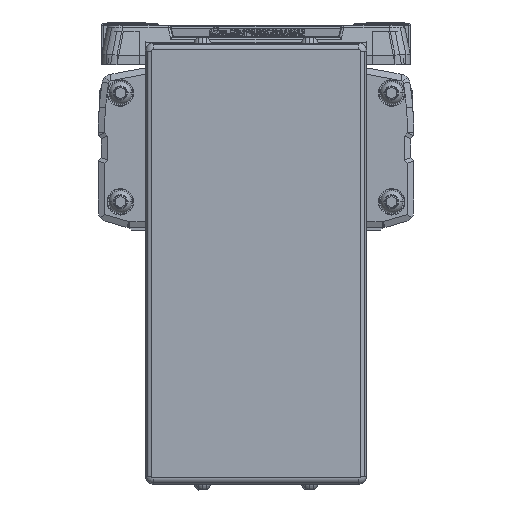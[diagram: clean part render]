
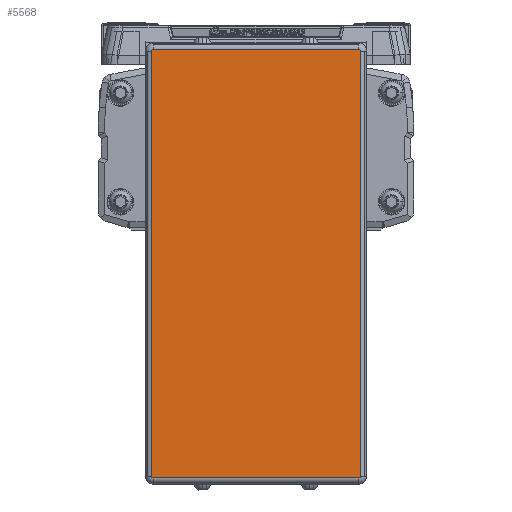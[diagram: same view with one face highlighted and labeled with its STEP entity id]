
A CAD part, left-side view. The second image highlights one B-rep face of the part: STEP entity #5568.
In plain terms, the highlighted planar face has unit normal (-1, 0, 0).
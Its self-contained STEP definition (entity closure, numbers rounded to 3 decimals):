
#5568=ADVANCED_FACE('',(#11791),#11792,.F.);
#11791=FACE_OUTER_BOUND('',#19036,.T.);
#11792=PLANE('',#19037);
#19036=EDGE_LOOP('',(#34960,#34961,#34962,#34963,#34964,#34965,#34966,#34967));
#19037=AXIS2_PLACEMENT_3D('',#34968,#34969,#34970);
#34960=ORIENTED_EDGE('',*,*,#47418,.T.);
#34961=ORIENTED_EDGE('',*,*,#47419,.T.);
#34962=ORIENTED_EDGE('',*,*,#43017,.T.);
#34963=ORIENTED_EDGE('',*,*,#44146,.T.);
#34964=ORIENTED_EDGE('',*,*,#46190,.T.);
#34965=ORIENTED_EDGE('',*,*,#44178,.T.);
#34966=ORIENTED_EDGE('',*,*,#43357,.T.);
#34967=ORIENTED_EDGE('',*,*,#46277,.T.);
#34968=CARTESIAN_POINT('',(-616.0,0.,-41.6));
#34969=DIRECTION('',(1.0,0.,0.));
#34970=DIRECTION('',(0.,0.,1.0));
#43017=EDGE_CURVE('',#52247,#52245,#52248,.T.);
#43357=EDGE_CURVE('',#52794,#52792,#52795,.T.);
#44146=EDGE_CURVE('',#52245,#54057,#54060,.T.);
#44178=EDGE_CURVE('',#54106,#52794,#54107,.T.);
#46190=EDGE_CURVE('',#54057,#54106,#57032,.T.);
#46277=EDGE_CURVE('',#52792,#57155,#57157,.T.);
#47418=EDGE_CURVE('',#57155,#58623,#58624,.T.);
#47419=EDGE_CURVE('',#58623,#52247,#58625,.T.);
#52245=VERTEX_POINT('',#65161);
#52247=VERTEX_POINT('',#65163);
#52248=LINE('',#65164,#65165);
#52792=VERTEX_POINT('',#65876);
#52794=VERTEX_POINT('',#65878);
#52795=LINE('',#65879,#65880);
#54057=VERTEX_POINT('',#67569);
#54060=CIRCLE('',#67572,0.5);
#54106=VERTEX_POINT('',#67631);
#54107=CIRCLE('',#67632,0.5);
#57032=LINE('',#71624,#71625);
#57155=VERTEX_POINT('',#71789);
#57157=CIRCLE('',#71791,0.5);
#58623=VERTEX_POINT('',#73856);
#58624=LINE('',#73857,#73858);
#58625=CIRCLE('',#73859,0.5);
#65161=CARTESIAN_POINT('',(-616.,32.55,26.3));
#65163=CARTESIAN_POINT('',(-616.,-32.55,26.3));
#65164=CARTESIAN_POINT('',(-616.,0.,26.3));
#65165=VECTOR('',#78509,10.0);
#65876=CARTESIAN_POINT('',(-616.0,-32.55,-109.5));
#65878=CARTESIAN_POINT('',(-616.0,32.55,-109.5));
#65879=CARTESIAN_POINT('',(-616.0,0.,-109.5));
#65880=VECTOR('',#78998,10.0);
#67569=CARTESIAN_POINT('',(-616.,33.05,25.8));
#67572=AXIS2_PLACEMENT_3D('',#80077,#80078,#80079);
#67631=CARTESIAN_POINT('',(-616.0,33.05,-109.));
#67632=AXIS2_PLACEMENT_3D('',#80129,#80130,#80131);
#71624=CARTESIAN_POINT('',(-616.0,33.05,-41.6));
#71625=VECTOR('',#82792,10.0);
#71789=CARTESIAN_POINT('',(-616.0,-33.05,-109.));
#71791=AXIS2_PLACEMENT_3D('',#82897,#82898,#82899);
#73856=CARTESIAN_POINT('',(-616.,-33.05,25.8));
#73857=CARTESIAN_POINT('',(-616.,-33.05,-41.6));
#73858=VECTOR('',#84329,10.0);
#73859=AXIS2_PLACEMENT_3D('',#84330,#84331,#84332);
#78509=DIRECTION('',(0.,1.0,0.));
#78998=DIRECTION('',(0.,-1.0,0.));
#80077=CARTESIAN_POINT('',(-616.,32.55,25.8));
#80078=DIRECTION('',(-1.0,0.,0.));
#80079=DIRECTION('',(0.,0.707,0.707));
#80129=CARTESIAN_POINT('',(-616.0,32.55,-109.));
#80130=DIRECTION('',(-1.0,0.,0.));
#80131=DIRECTION('',(0.,0.707,-0.707));
#82792=DIRECTION('',(0.,0.,-1.0));
#82897=CARTESIAN_POINT('',(-616.0,-32.55,-109.));
#82898=DIRECTION('',(-1.0,0.,0.));
#82899=DIRECTION('',(0.,-0.707,-0.707));
#84329=DIRECTION('',(0.,0.,1.0));
#84330=CARTESIAN_POINT('',(-616.,-32.55,25.8));
#84331=DIRECTION('',(-1.0,0.,0.));
#84332=DIRECTION('',(0.,-0.707,0.707));
